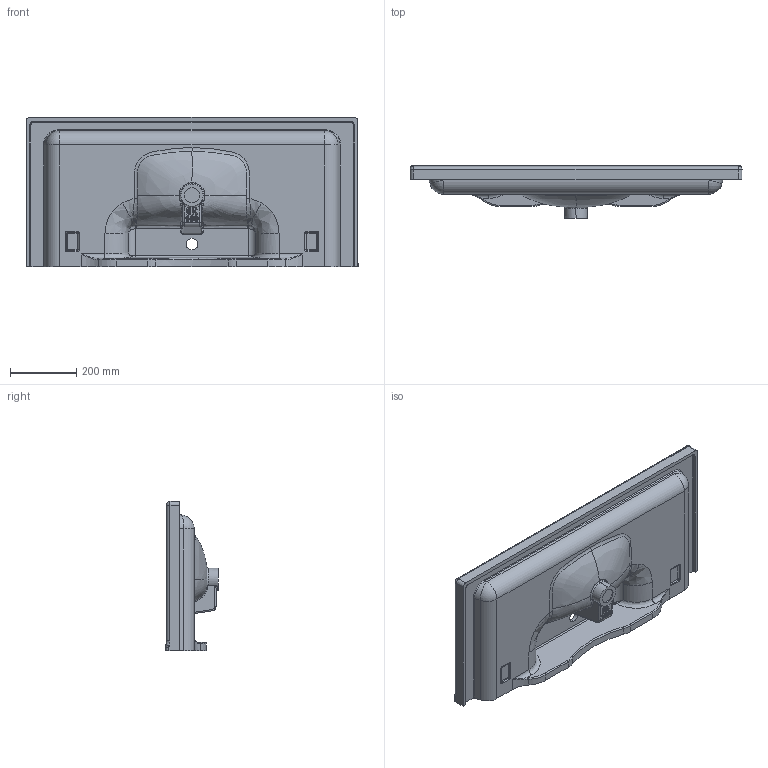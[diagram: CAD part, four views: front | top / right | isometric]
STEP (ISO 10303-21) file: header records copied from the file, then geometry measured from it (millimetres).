
FILE_DESCRIPTION (( 'STEP AP203' ), '1' );
FILE_NAME ('EK100 3D.STEP', '2022-04-07T12:31:57', ( '' ), ( '' ), 'SwSTEP 2.0', 'SolidWorks 2021', '' );
FILE_SCHEMA (( 'CONFIG_CONTROL_DESIGN' ));
Length unit declared in the file: millimetre
Products named in the file (1): EK100 3D
Bounding box: 998.8 x 159 x 449.7 mm (x, y, z)
Volume: 22542843.8 mm3; surface area: 1268566 mm2
Topology: 2 solids, 2 shells, 419 faces, 1034 edges, 576 vertices
Faces by surface type: bspline 164, cylinder 141, plane 49, torus 47, sphere 14, cone 4
Entity records: 77735 total; most frequent: CARTESIAN_POINT 69368, ORIENTED_EDGE 1962, DIRECTION 1461, EDGE_CURVE 981, AXIS2_PLACEMENT_3D 595, VERTEX_POINT 576, EDGE_LOOP 433, FACE_OUTER_BOUND 419
